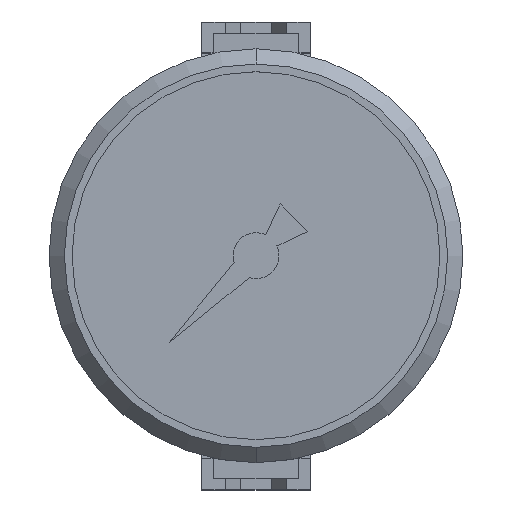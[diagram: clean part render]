
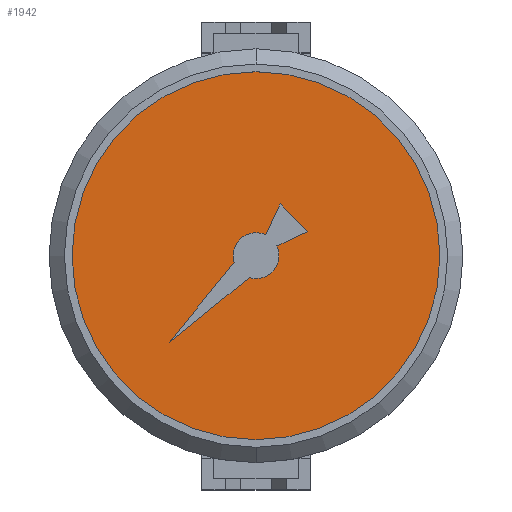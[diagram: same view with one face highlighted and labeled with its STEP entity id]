
A CAD part, top view. The second image highlights one B-rep face of the part: STEP entity #1942.
In plain terms, the highlighted planar face has unit normal (0, 0, 1).
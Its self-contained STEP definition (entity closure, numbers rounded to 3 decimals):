
#527=CARTESIAN_POINT('',(0.,0.,55.5));
#528=DIRECTION('',(0.,0.,1.));
#529=DIRECTION('',(0.,1.,0.));
#530=AXIS2_PLACEMENT_3D('',#527,#528,#529);
#536=CARTESIAN_POINT('',(0.,0.,55.5));
#537=DIRECTION('',(0.,0.,-1.));
#538=DIRECTION('',(0.,1.,0.));
#539=AXIS2_PLACEMENT_3D('',#536,#537,#538);
#545=DIRECTION('',(-0.707,0.707,0.));
#546=VECTOR('',#545,5.096);
#547=CARTESIAN_POINT('',(6.751,3.148,55.5));
#548=LINE('',#547,#546);
#549=DIRECTION('',(-0.423,-0.906,0.));
#550=VECTOR('',#549,4.449);
#551=CARTESIAN_POINT('',(3.148,6.751,55.5));
#552=LINE('',#551,#550);
#553=CARTESIAN_POINT('',(0.,0.,55.5));
#554=DIRECTION('',(0.,0.,1.));
#555=DIRECTION('',(0.423,0.906,0.));
#556=AXIS2_PLACEMENT_3D('',#553,#554,#555);
#558=DIRECTION('',(-0.629,-0.777,0.));
#559=VECTOR('',#558,13.422);
#560=CARTESIAN_POINT('',(-2.867,-0.883,55.5));
#561=LINE('',#560,#559);
#562=DIRECTION('',(0.777,0.629,0.));
#563=VECTOR('',#562,13.422);
#564=CARTESIAN_POINT('',(-11.314,-11.314,55.5));
#565=LINE('',#564,#563);
#566=CARTESIAN_POINT('',(0.,0.,55.5));
#567=DIRECTION('',(0.,0.,1.));
#568=DIRECTION('',(-0.294,-0.956,0.));
#569=AXIS2_PLACEMENT_3D('',#566,#567,#568);
#571=DIRECTION('',(0.906,0.423,0.));
#572=VECTOR('',#571,4.449);
#573=CARTESIAN_POINT('',(2.719,1.268,55.5));
#574=LINE('',#573,#572);
#1021=CARTESIAN_POINT('',(0.,24.,55.5));
#1022=CARTESIAN_POINT('',(0.,-24.,55.5));
#1023=VERTEX_POINT('',#1021);
#1024=VERTEX_POINT('',#1022);
#1043=CARTESIAN_POINT('',(6.751,3.148,55.5));
#1044=CARTESIAN_POINT('',(3.148,6.751,55.5));
#1045=VERTEX_POINT('',#1043);
#1046=VERTEX_POINT('',#1044);
#1047=CARTESIAN_POINT('',(1.268,2.719,55.5));
#1048=VERTEX_POINT('',#1047);
#1049=CARTESIAN_POINT('',(-2.867,-0.883,55.5));
#1050=VERTEX_POINT('',#1049);
#1051=CARTESIAN_POINT('',(-11.314,-11.314,55.5));
#1052=VERTEX_POINT('',#1051);
#1053=CARTESIAN_POINT('',(-0.883,-2.867,55.5));
#1054=VERTEX_POINT('',#1053);
#1055=CARTESIAN_POINT('',(2.719,1.268,55.5));
#1056=VERTEX_POINT('',#1055);
#1917=CARTESIAN_POINT('',(0.,0.,55.5));
#1918=DIRECTION('',(0.,0.,1.));
#1919=DIRECTION('',(0.,1.,0.));
#1920=AXIS2_PLACEMENT_3D('',#1917,#1918,#1919);
#1921=PLANE('',#1920);
#1922=ORIENTED_EDGE('',*,*,#1911,.T.);
#1923=ORIENTED_EDGE('',*,*,#1897,.F.);
#1924=EDGE_LOOP('',(#1922,#1923));
#1925=FACE_OUTER_BOUND('',#1924,.F.);
#1927=ORIENTED_EDGE('',*,*,#1926,.T.);
#1929=ORIENTED_EDGE('',*,*,#1928,.T.);
#1931=ORIENTED_EDGE('',*,*,#1930,.T.);
#1933=ORIENTED_EDGE('',*,*,#1932,.T.);
#1935=ORIENTED_EDGE('',*,*,#1934,.T.);
#1937=ORIENTED_EDGE('',*,*,#1936,.T.);
#1939=ORIENTED_EDGE('',*,*,#1938,.T.);
#1940=EDGE_LOOP('',(#1927,#1929,#1931,#1933,#1935,#1937,#1939));
#1941=FACE_BOUND('',#1940,.F.);
#531=CIRCLE('',#530,24.);
#540=CIRCLE('',#539,24.);
#557=CIRCLE('',#556,3.);
#570=CIRCLE('',#569,3.);
#1897=EDGE_CURVE('',#1023,#1024,#531,.T.);
#1911=EDGE_CURVE('',#1023,#1024,#540,.T.);
#1926=EDGE_CURVE('',#1045,#1046,#548,.T.);
#1928=EDGE_CURVE('',#1046,#1048,#552,.T.);
#1930=EDGE_CURVE('',#1048,#1050,#557,.T.);
#1932=EDGE_CURVE('',#1050,#1052,#561,.T.);
#1934=EDGE_CURVE('',#1052,#1054,#565,.T.);
#1936=EDGE_CURVE('',#1054,#1056,#570,.T.);
#1938=EDGE_CURVE('',#1056,#1045,#574,.T.);
#1942=ADVANCED_FACE('',(#1925,#1941),#1921,.T.);
